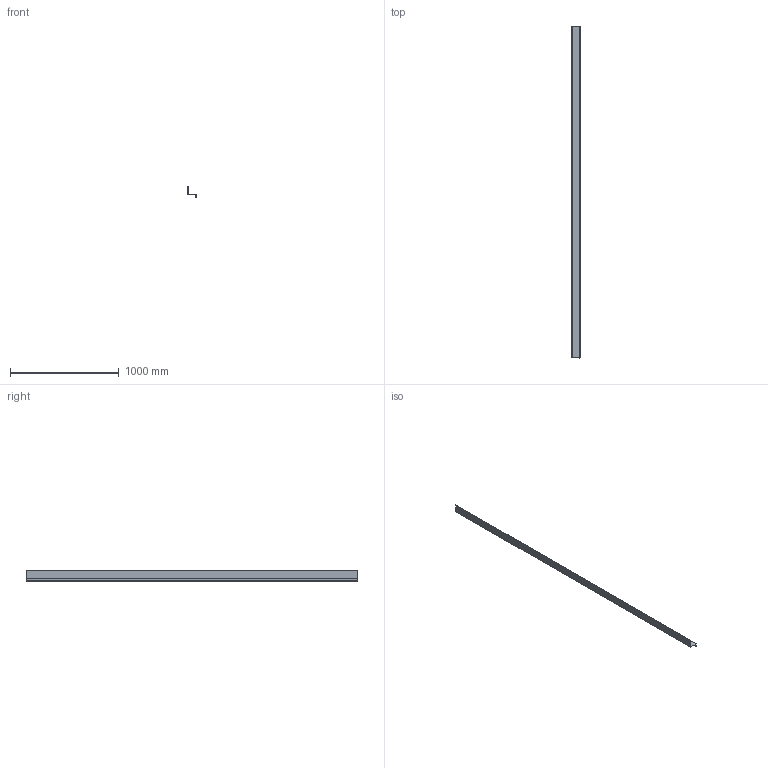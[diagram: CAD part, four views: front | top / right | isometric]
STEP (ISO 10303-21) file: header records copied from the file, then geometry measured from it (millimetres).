
FILE_DESCRIPTION(/* description */ (''),/* implementation_level */ '2;1');
FILE_NAME(/* name */ 'C:\Users\Utilisateur\Mac Metal\Site de communication - Documents\Ingénierie\Développement de produits\Board and Batten\Dessins\Moulures\M51H\M51H.stp',/* time_stamp */ '2022-06-29T16:43:06-04:00',/* author */ ('Utilisateur'),/* organization */ (''),/* preprocessor_version */ 'ST-DEVELOPER v18.1',/* originating_system */ 'Autodesk Inventor 2021',/* authorisation */ '');
FILE_SCHEMA (('AUTOMOTIVE_DESIGN { 1 0 10303 214 3 1 1 }'));
Length unit declared in the file: inch
Products named in the file (1): Solin à angle droit
Bounding box: 73.53 x 3048 x 106.85 mm (x, y, z)
Volume: 302170.6 mm3; surface area: 1192943.1 mm2
Topology: 1 solids, 1 shells, 18 faces, 48 edges, 32 vertices
Faces by surface type: plane 12, cylinder 6
Entity records: 607 total; most frequent: CARTESIAN_POINT 99, DIRECTION 98, ORIENTED_EDGE 96, EDGE_CURVE 48, LINE 36, VECTOR 36, VERTEX_POINT 32, AXIS2_PLACEMENT_3D 31
